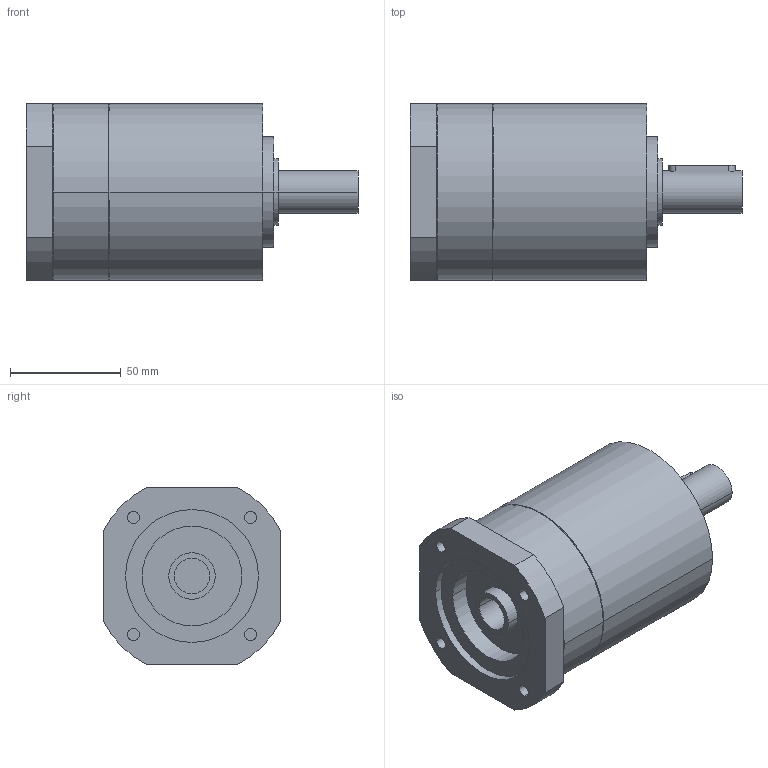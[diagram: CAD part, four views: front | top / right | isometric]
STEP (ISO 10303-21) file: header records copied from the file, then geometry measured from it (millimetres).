
FILE_DESCRIPTION(('CoCreate Modeling STEP Export'),'2;1');
FILE_NAME('GPR100_ig-3-4-5-6_19_B14_16_P03.stp','2014-08-26T10:08:03',(''),(''),'CoCreate Modeling STEP processor for AP214 (Solid Model)','CoCreate Modeling 16.00C 25-Feb-2009 (C) Parametric Technology GmbH','');
FILE_SCHEMA(('AUTOMOTIVE_DESIGN { 1 0 10303 214 1 1 1 1 }'));
Length unit declared in the file: millimetre
Products named in the file (2): GPR100_ig-3-4-5-6_19_B14_16_P03
Assembly tree (1 placements, depth 2):
  GPR100_ig-3-4-5-6_19_B14_16_P03
    GPR100_ig-3-4-5-6_19_B14_16_P03
Bounding box: 150 x 80 x 80 mm (x, y, z)
Volume: 536311 mm3; surface area: 49241.8 mm2
Topology: 1 solids, 1 shells, 86 faces, 233 edges, 161 vertices
Faces by surface type: cylinder 50, plane 30, cone 6
Entity records: 2322 total; most frequent: ORIENTED_EDGE 462, CARTESIAN_POINT 419, DIRECTION 314, EDGE_CURVE 231, VERTEX_POINT 161, AXIS2_PLACEMENT_3D 120, EDGE_LOOP 108, FACE_OUTER_BOUND 86
